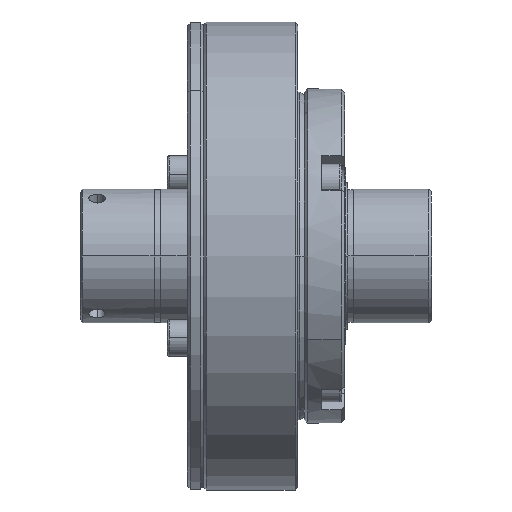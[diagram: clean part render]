
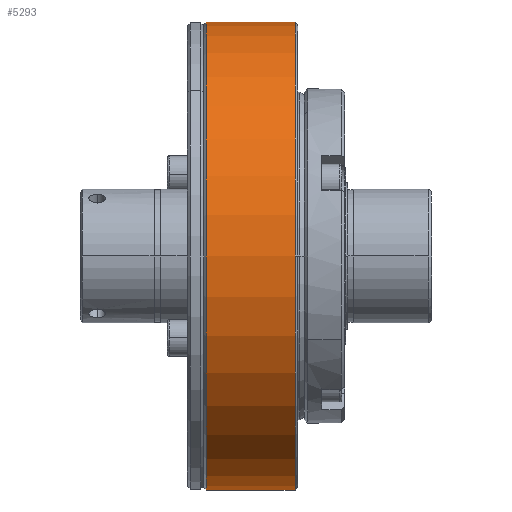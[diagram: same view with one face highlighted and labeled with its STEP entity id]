
A CAD part, front view. The second image highlights one B-rep face of the part: STEP entity #5293.
In plain terms, the highlighted cylindrical face has radius 35 mm (diameter 70 mm), a partial arc.
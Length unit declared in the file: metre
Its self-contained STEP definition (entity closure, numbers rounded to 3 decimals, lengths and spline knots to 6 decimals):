
#99 = EDGE_LOOP ( 'NONE', ( #21166, #23782, #22709, #10219, #19031 ) ) ;
#420 = EDGE_CURVE ( 'NONE', #9217, #19304, #9922, .T. ) ;
#561 = DIRECTION ( 'NONE',  ( -1., 0., 0. ) ) ;
#1415 = CARTESIAN_POINT ( 'NONE',  ( -0.042142, 0., 0. ) ) ;
#2106 = DIRECTION ( 'NONE',  ( 1., 0., 0. ) ) ;
#2327 = EDGE_CURVE ( 'NONE', #17296, #10478, #19348, .T. ) ;
#2349 = DIRECTION ( 'NONE',  ( 0., 0., 1. ) ) ;
#2996 = VECTOR ( 'NONE', #561, 1. ) ;
#4207 = CARTESIAN_POINT ( 'NONE',  ( -0.0337, 0., 0.035 ) ) ;
#4400 = CARTESIAN_POINT ( 'NONE',  ( -0.042142, 0., 0.035 ) ) ;
#5293 = ADVANCED_FACE ( 'NONE', ( #21613 ), #23290, .T. ) ;
#6137 = AXIS2_PLACEMENT_3D ( 'NONE', #9808, #8242, #19075 ) ;
#7017 = DIRECTION ( 'NONE',  ( -1., 0., 0. ) ) ;
#7258 = CARTESIAN_POINT ( 'NONE',  ( -0.042142, 0., -0.035 ) ) ;
#7260 = CARTESIAN_POINT ( 'NONE',  ( -0.0204, 0., 0. ) ) ;
#8242 = DIRECTION ( 'NONE',  ( -1., 0., 0. ) ) ;
#8785 = AXIS2_PLACEMENT_3D ( 'NONE', #18839, #2106, #2349 ) ;
#9088 = DIRECTION ( 'NONE',  ( 0., 0., 1. ) ) ;
#9217 = VERTEX_POINT ( 'NONE', #15520 ) ;
#9808 = CARTESIAN_POINT ( 'NONE',  ( -0.0204, 0., 0. ) ) ;
#9922 = CIRCLE ( 'NONE', #21066, 0.035 ) ;
#10108 = CARTESIAN_POINT ( 'NONE',  ( -0.0204, 0., 0.035 ) ) ;
#10219 = ORIENTED_EDGE ( 'NONE', *, *, #2327, .T. ) ;
#10478 = VERTEX_POINT ( 'NONE', #4207 ) ;
#11093 = CIRCLE ( 'NONE', #8785, 0.035 ) ;
#11904 = CIRCLE ( 'NONE', #6137, 0.035 ) ;
#13869 = EDGE_CURVE ( 'NONE', #19304, #17296, #11904, .T. ) ;
#14242 = DIRECTION ( 'NONE',  ( -1., 0., 0. ) ) ;
#15520 = CARTESIAN_POINT ( 'NONE',  ( -0.0204, 0., -0.035 ) ) ;
#16772 = EDGE_CURVE ( 'NONE', #9217, #22406, #18204, .T. ) ;
#16973 = CARTESIAN_POINT ( 'NONE',  ( -0.0337, 0., -0.035 ) ) ;
#17296 = VERTEX_POINT ( 'NONE', #10108 ) ;
#18204 = LINE ( 'NONE', #7258, #22901 ) ;
#18839 = CARTESIAN_POINT ( 'NONE',  ( -0.0337, 0., 0. ) ) ;
#19031 = ORIENTED_EDGE ( 'NONE', *, *, #21829, .T. ) ;
#19075 = DIRECTION ( 'NONE',  ( 0., 0., 1. ) ) ;
#19304 = VERTEX_POINT ( 'NONE', #22078 ) ;
#19348 = LINE ( 'NONE', #4400, #2996 ) ;
#20010 = DIRECTION ( 'NONE',  ( 0., 0., 1. ) ) ;
#20055 = DIRECTION ( 'NONE',  ( -1., 0., 0. ) ) ;
#21066 = AXIS2_PLACEMENT_3D ( 'NONE', #7260, #14242, #20010 ) ;
#21166 = ORIENTED_EDGE ( 'NONE', *, *, #16772, .F. ) ;
#21613 = FACE_OUTER_BOUND ( 'NONE', #99, .T. ) ;
#21829 = EDGE_CURVE ( 'NONE', #10478, #22406, #11093, .T. ) ;
#21998 = AXIS2_PLACEMENT_3D ( 'NONE', #1415, #20055, #9088 ) ;
#22078 = CARTESIAN_POINT ( 'NONE',  ( -0.0204, -0.035, 0. ) ) ;
#22406 = VERTEX_POINT ( 'NONE', #16973 ) ;
#22709 = ORIENTED_EDGE ( 'NONE', *, *, #13869, .T. ) ;
#22901 = VECTOR ( 'NONE', #7017, 1. ) ;
#23290 = CYLINDRICAL_SURFACE ( 'NONE', #21998, 0.035 ) ;
#23782 = ORIENTED_EDGE ( 'NONE', *, *, #420, .T. ) ;
